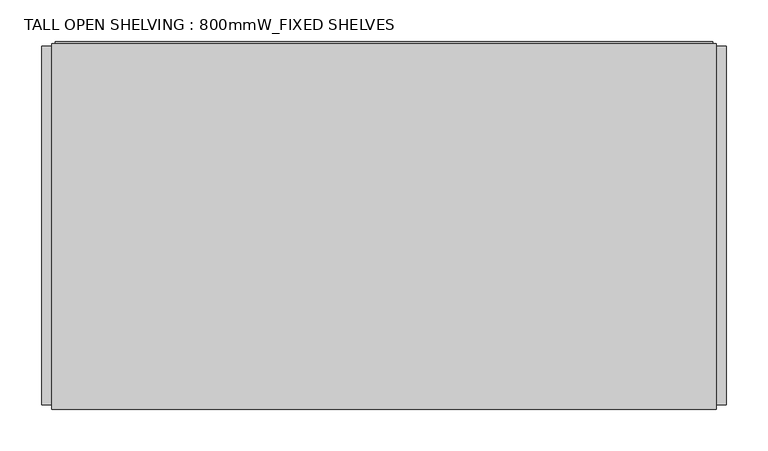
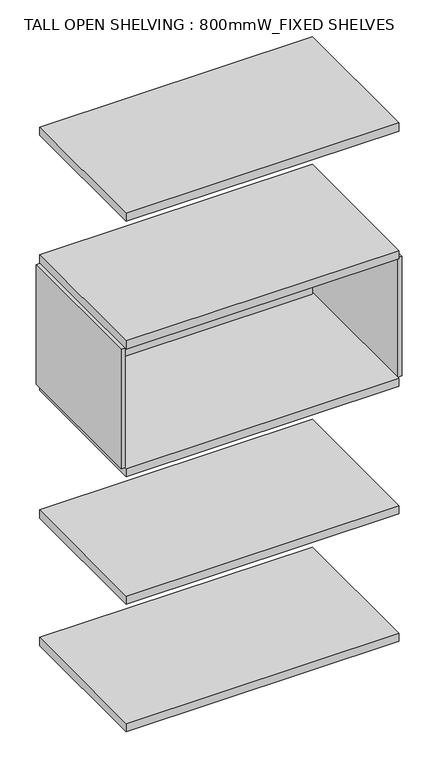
"""IFC4 building model written with IfcOpenShell, lengths in millimetres: furniture geometry, TALL OPEN SHELVING : 800mmW_FIXED SHELVES."""

from ifc_helpers import new_model, si_unit, frame, origin, place, context, project, spatial, polyline, outline, extrude, source, transform, mapped, element, save


def tall_open_shelving_800mmw_fixed_shelves_1bc09639(model_context):
    return source(origin(), model_context, "Body", "SweptSolid", [
        extrude(outline(polyline([(412.0, -214.7757931), (400.0, -214.7757931), (400.0, 217.1931665), (412.0, 217.1931665), (412.0, -214.7757931)])), frame((0.0, 0.0, 808.0), z_axis=(0.0, 0.0, 1.0), x_axis=(1.0, 0.0, 0.0)), (0.0, 0.0, 1.0), 370.0),
        extrude(outline(polyline([(400.0, 220.0), (400.0, -220.0), (-400.0, -220.0), (-400.0, 220.0), (400.0, 220.0)])), frame((0.0, 0.0, -7.0), z_axis=(0.0, 0.0, 1.0), x_axis=(1.0, 0.0, 0.0)), (0.0, 0.0, 1.0), 25.0),
        extrude(outline(polyline([(400.0, 220.0), (400.0, -220.0), (-400.0, -220.0), (-400.0, 220.0), (400.0, 220.0)])), frame((0.0, 0.0, 388.0), z_axis=(0.0, 0.0, 1.0), x_axis=(1.0, 0.0, 0.0)), (0.0, 0.0, 1.0), 25.0),
        extrude(outline(polyline([(400.0, 220.0), (400.0, -220.0), (-400.0, -220.0), (-400.0, 220.0), (400.0, 220.0)])), frame((0.0, 0.0, 783.0), z_axis=(0.0, 0.0, 1.0), x_axis=(1.0, 0.0, 0.0)), (0.0, 0.0, 1.0), 25.0),
        extrude(outline(polyline([(400.0, 220.0), (400.0, -220.0), (-400.0, -220.0), (-400.0, 220.0), (400.0, 220.0)])), frame((0.0, 0.0, 1178.0), z_axis=(0.0, 0.0, 1.0), x_axis=(1.0, 0.0, 0.0)), (0.0, 0.0, 1.0), 25.0),
        extrude(outline(polyline([(400.0, 220.0), (400.0, -220.0), (-400.0, -220.0), (-400.0, 220.0), (400.0, 220.0)])), frame((0.0, 0.0, 1573.0), z_axis=(0.0, 0.0, 1.0), x_axis=(1.0, 0.0, 0.0)), (0.0, 0.0, 1.0), 25.0),
        extrude(outline(polyline([(-400.0, -214.7757931), (-412.0, -214.7757931), (-412.0, 217.1931665), (-400.0, 217.1931665), (-400.0, -214.7757931)])), frame((0.0, 0.0, 808.0), z_axis=(0.0, 0.0, 1.0), x_axis=(1.0, 0.0, 0.0)), (0.0, 0.0, 1.0), 370.0),
        extrude(outline(polyline([(395.4939356, 222.7282814), (395.4939356, 210.7282814), (-395.4939356, 210.7282814), (-395.4939356, 222.7282814), (395.4939356, 222.7282814)])), frame((0.0, 0.0, 808.0), z_axis=(0.0, 0.0, 1.0), x_axis=(1.0, 0.0, 0.0)), (0.0, 0.0, 1.0), 370.0),
    ])


if __name__ == "__main__":
    model = new_model("IFC4")
    model_context = context("Model", 3, world=origin())
    ifc_project = project(units=[si_unit("LENGTHUNIT", "METRE", prefix="MILLI")], contexts=[model_context])
    site = spatial("IfcSite", under=ifc_project)
    building = spatial("IfcBuilding", under=site)
    placement = place(None, origin())
    tall_open_shelving_800mmw_fixed_shelves_shape = tall_open_shelving_800mmw_fixed_shelves_1bc09639(model_context)
    element("IfcFurniture", 1, ObjectType="TALL OPEN SHELVING : 800mmW_FIXED SHELVES", at=placement, inside=building, context=model_context, shape_type="MappedRepresentation", body=[
        mapped(tall_open_shelving_800mmw_fixed_shelves_shape, transform((0.0, 0.0, 0.0), x_axis=(1.0, 0.0, 0.0), y_axis=(0.0, 1.0, 0.0), z_axis=(0.0, 0.0, 1.0))),
    ])
    save(model, "model.ifc")
